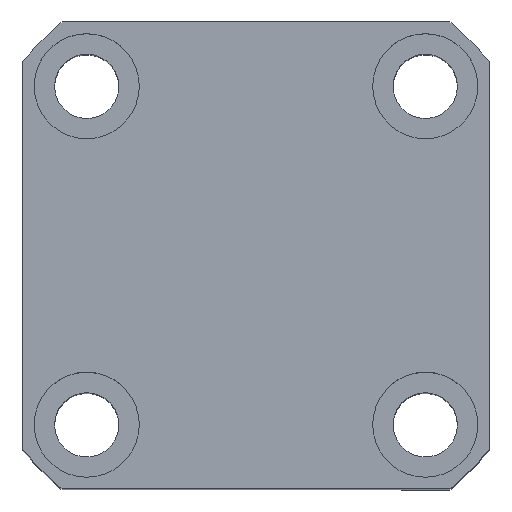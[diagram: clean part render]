
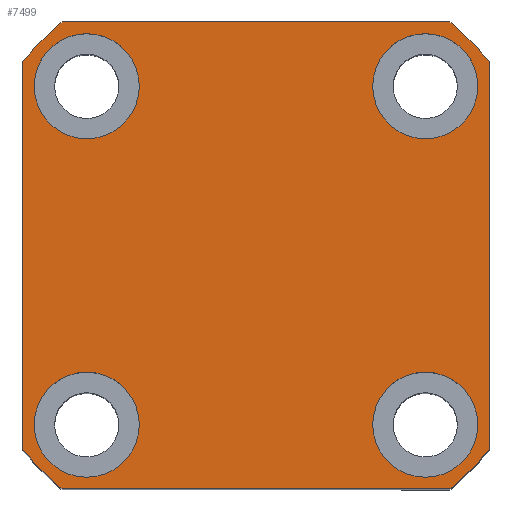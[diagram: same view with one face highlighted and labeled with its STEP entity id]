
A CAD part, top view. The second image highlights one B-rep face of the part: STEP entity #7499.
In plain terms, the highlighted planar face has unit normal (0, 0, 1).
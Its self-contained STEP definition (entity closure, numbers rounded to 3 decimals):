
#20 = DIRECTION ( 'NONE',  ( 1., 0., 0. ) ) ;
#23 = EDGE_CURVE ( 'NONE', #7482, #9478, #5397, .T. ) ;
#97 = ORIENTED_EDGE ( 'NONE', *, *, #13170, .T. ) ;
#160 = DIRECTION ( 'NONE',  ( 0., 0., 1. ) ) ;
#259 = VERTEX_POINT ( 'NONE', #10989 ) ;
#319 = VECTOR ( 'NONE', #8553, 1000. ) ;
#350 = ORIENTED_EDGE ( 'NONE', *, *, #7555, .F. ) ;
#438 = VERTEX_POINT ( 'NONE', #6042 ) ;
#563 = CIRCLE ( 'NONE', #3955, 9. ) ;
#766 = ORIENTED_EDGE ( 'NONE', *, *, #14196, .T. ) ;
#1042 = CARTESIAN_POINT ( 'NONE',  ( 20., 29., 52.5 ) ) ;
#1100 = VERTEX_POINT ( 'NONE', #3718 ) ;
#1332 = DIRECTION ( 'NONE',  ( 0., -1., 0. ) ) ;
#1334 = CIRCLE ( 'NONE', #10176, 9. ) ;
#1445 = CARTESIAN_POINT ( 'NONE',  ( 0., 0., 52.5 ) ) ;
#1593 = DIRECTION ( 'NONE',  ( 0., 0., 1. ) ) ;
#1915 = ORIENTED_EDGE ( 'NONE', *, *, #12747, .T. ) ;
#1973 = DIRECTION ( 'NONE',  ( 0., 0., 1. ) ) ;
#1993 = FACE_BOUND ( 'NONE', #2980, .T. ) ;
#2022 = DIRECTION ( 'NONE',  ( 1., 0., 0. ) ) ;
#2194 = CARTESIAN_POINT ( 'NONE',  ( 29., -29., 52.5 ) ) ;
#2205 = DIRECTION ( 'NONE',  ( 0., 0., 1. ) ) ;
#2312 = CARTESIAN_POINT ( 'NONE',  ( 40., 33.226, 52.5 ) ) ;
#2402 = CARTESIAN_POINT ( 'NONE',  ( -33.226, -40., 52.5 ) ) ;
#2417 = EDGE_CURVE ( 'NONE', #1100, #13670, #11173, .T. ) ;
#2428 = VERTEX_POINT ( 'NONE', #4315 ) ;
#2626 = CARTESIAN_POINT ( 'NONE',  ( -33.226, 40., 52.5 ) ) ;
#2692 = ORIENTED_EDGE ( 'NONE', *, *, #23, .T. ) ;
#2723 = EDGE_CURVE ( 'NONE', #8431, #7482, #6367, .T. ) ;
#2822 = VECTOR ( 'NONE', #9058, 1000. ) ;
#2845 = CIRCLE ( 'NONE', #10443, 9. ) ;
#2862 = DIRECTION ( 'NONE',  ( 1., 0., 0. ) ) ;
#2947 = AXIS2_PLACEMENT_3D ( 'NONE', #2194, #6552, #8691 ) ;
#2980 = EDGE_LOOP ( 'NONE', ( #12749, #6247 ) ) ;
#3077 = AXIS2_PLACEMENT_3D ( 'NONE', #5657, #2205, #13287 ) ;
#3302 = ORIENTED_EDGE ( 'NONE', *, *, #11012, .F. ) ;
#3345 = CARTESIAN_POINT ( 'NONE',  ( -20., 29., 52.5 ) ) ;
#3351 = FACE_OUTER_BOUND ( 'NONE', #9368, .T. ) ;
#3360 = EDGE_LOOP ( 'NONE', ( #12214, #350 ) ) ;
#3536 = VERTEX_POINT ( 'NONE', #6315 ) ;
#3605 = CARTESIAN_POINT ( 'NONE',  ( -40., 33.226, 52.5 ) ) ;
#3620 = CIRCLE ( 'NONE', #5961, 52. ) ;
#3718 = CARTESIAN_POINT ( 'NONE',  ( 20., -29., 52.5 ) ) ;
#3929 = CARTESIAN_POINT ( 'NONE',  ( 0., 0., 52.5 ) ) ;
#3955 = AXIS2_PLACEMENT_3D ( 'NONE', #8994, #9968, #13374 ) ;
#4023 = DIRECTION ( 'NONE',  ( 0., 0., 1. ) ) ;
#4146 = CARTESIAN_POINT ( 'NONE',  ( -40., 33.226, 52.5 ) ) ;
#4315 = CARTESIAN_POINT ( 'NONE',  ( 38., 29., 52.5 ) ) ;
#4517 = CARTESIAN_POINT ( 'NONE',  ( -40., -33.226, 52.5 ) ) ;
#4522 = CARTESIAN_POINT ( 'NONE',  ( 0., 0., 52.5 ) ) ;
#4659 = DIRECTION ( 'NONE',  ( 1., 0., 0. ) ) ;
#4874 = CARTESIAN_POINT ( 'NONE',  ( -38., 29., 52.5 ) ) ;
#4896 = ORIENTED_EDGE ( 'NONE', *, *, #2723, .T. ) ;
#4985 = EDGE_CURVE ( 'NONE', #7458, #259, #3620, .T. ) ;
#5125 = CARTESIAN_POINT ( 'NONE',  ( 33.226, 40., 52.5 ) ) ;
#5397 = LINE ( 'NONE', #7410, #12565 ) ;
#5414 = EDGE_CURVE ( 'NONE', #438, #3536, #563, .T. ) ;
#5498 = ORIENTED_EDGE ( 'NONE', *, *, #10920, .T. ) ;
#5657 = CARTESIAN_POINT ( 'NONE',  ( 0., 0., 52.5 ) ) ;
#5961 = AXIS2_PLACEMENT_3D ( 'NONE', #4522, #9005, #4659 ) ;
#6042 = CARTESIAN_POINT ( 'NONE',  ( -20., -29., 52.5 ) ) ;
#6247 = ORIENTED_EDGE ( 'NONE', *, *, #11301, .F. ) ;
#6315 = CARTESIAN_POINT ( 'NONE',  ( -38., -29., 52.5 ) ) ;
#6367 = CIRCLE ( 'NONE', #8354, 52. ) ;
#6403 = VERTEX_POINT ( 'NONE', #4146 ) ;
#6431 = CARTESIAN_POINT ( 'NONE',  ( 38., -29., 52.5 ) ) ;
#6442 = CIRCLE ( 'NONE', #8207, 9. ) ;
#6448 = DIRECTION ( 'NONE',  ( 0., 0., 1. ) ) ;
#6552 = DIRECTION ( 'NONE',  ( 0., 0., 1. ) ) ;
#6578 = VERTEX_POINT ( 'NONE', #4874 ) ;
#6588 = LINE ( 'NONE', #3605, #10675 ) ;
#6693 = ORIENTED_EDGE ( 'NONE', *, *, #11919, .T. ) ;
#6865 = DIRECTION ( 'NONE',  ( 1., 0., 0. ) ) ;
#6936 = CIRCLE ( 'NONE', #11958, 52. ) ;
#7202 = DIRECTION ( 'NONE',  ( 1., 0., 0. ) ) ;
#7363 = CARTESIAN_POINT ( 'NONE',  ( -29., 29., 52.5 ) ) ;
#7400 = AXIS2_PLACEMENT_3D ( 'NONE', #9401, #9487, #7202 ) ;
#7410 = CARTESIAN_POINT ( 'NONE',  ( 40., 33.226, 52.5 ) ) ;
#7433 = VERTEX_POINT ( 'NONE', #3345 ) ;
#7458 = VERTEX_POINT ( 'NONE', #4517 ) ;
#7482 = VERTEX_POINT ( 'NONE', #7761 ) ;
#7499 = ADVANCED_FACE ( 'NONE', ( #9555, #7832, #1993, #9032, #3351 ), #12163, .T. ) ;
#7555 = EDGE_CURVE ( 'NONE', #8542, #2428, #1334, .T. ) ;
#7761 = CARTESIAN_POINT ( 'NONE',  ( 40., -33.226, 52.5 ) ) ;
#7832 = FACE_BOUND ( 'NONE', #12361, .T. ) ;
#7840 = AXIS2_PLACEMENT_3D ( 'NONE', #3929, #11755, #2862 ) ;
#8101 = VERTEX_POINT ( 'NONE', #2626 ) ;
#8151 = CIRCLE ( 'NONE', #9505, 9. ) ;
#8178 = CARTESIAN_POINT ( 'NONE',  ( -29., -29., 52.5 ) ) ;
#8207 = AXIS2_PLACEMENT_3D ( 'NONE', #7363, #4023, #10765 ) ;
#8291 = CIRCLE ( 'NONE', #10980, 9. ) ;
#8320 = EDGE_LOOP ( 'NONE', ( #3302, #13647 ) ) ;
#8354 = AXIS2_PLACEMENT_3D ( 'NONE', #14167, #6448, #13020 ) ;
#8431 = VERTEX_POINT ( 'NONE', #10756 ) ;
#8542 = VERTEX_POINT ( 'NONE', #1042 ) ;
#8553 = DIRECTION ( 'NONE',  ( -1., 0., 0. ) ) ;
#8621 = CIRCLE ( 'NONE', #7400, 9. ) ;
#8691 = DIRECTION ( 'NONE',  ( 1., 0., 0. ) ) ;
#8833 = EDGE_CURVE ( 'NONE', #2428, #8542, #2845, .T. ) ;
#8994 = CARTESIAN_POINT ( 'NONE',  ( -29., -29., 52.5 ) ) ;
#9005 = DIRECTION ( 'NONE',  ( 0., 0., 1. ) ) ;
#9032 = FACE_BOUND ( 'NONE', #3360, .T. ) ;
#9058 = DIRECTION ( 'NONE',  ( 1., 0., 0. ) ) ;
#9131 = EDGE_CURVE ( 'NONE', #7433, #6578, #6442, .T. ) ;
#9136 = DIRECTION ( 'NONE',  ( 1., 0., 0. ) ) ;
#9368 = EDGE_LOOP ( 'NONE', ( #1915, #97, #11861, #5498, #4896, #2692, #6693, #766 ) ) ;
#9401 = CARTESIAN_POINT ( 'NONE',  ( 29., -29., 52.5 ) ) ;
#9478 = VERTEX_POINT ( 'NONE', #2312 ) ;
#9487 = DIRECTION ( 'NONE',  ( 0., 0., 1. ) ) ;
#9505 = AXIS2_PLACEMENT_3D ( 'NONE', #8178, #1593, #11533 ) ;
#9555 = FACE_BOUND ( 'NONE', #8320, .T. ) ;
#9598 = CARTESIAN_POINT ( 'NONE',  ( -29., 29., 52.5 ) ) ;
#9833 = EDGE_CURVE ( 'NONE', #3536, #438, #8151, .T. ) ;
#9862 = ORIENTED_EDGE ( 'NONE', *, *, #5414, .F. ) ;
#9968 = DIRECTION ( 'NONE',  ( 0., 0., 1. ) ) ;
#10013 = CIRCLE ( 'NONE', #7840, 52. ) ;
#10029 = CARTESIAN_POINT ( 'NONE',  ( 29., 29., 52.5 ) ) ;
#10040 = CARTESIAN_POINT ( 'NONE',  ( 29., 29., 52.5 ) ) ;
#10176 = AXIS2_PLACEMENT_3D ( 'NONE', #10029, #160, #20 ) ;
#10443 = AXIS2_PLACEMENT_3D ( 'NONE', #10040, #13342, #6865 ) ;
#10675 = VECTOR ( 'NONE', #1332, 1000. ) ;
#10756 = CARTESIAN_POINT ( 'NONE',  ( 33.226, -40., 52.5 ) ) ;
#10765 = DIRECTION ( 'NONE',  ( 1., 0., 0. ) ) ;
#10920 = EDGE_CURVE ( 'NONE', #259, #8431, #13110, .T. ) ;
#10980 = AXIS2_PLACEMENT_3D ( 'NONE', #9598, #1973, #2022 ) ;
#10989 = CARTESIAN_POINT ( 'NONE',  ( -33.226, -40., 52.5 ) ) ;
#11012 = EDGE_CURVE ( 'NONE', #13670, #1100, #8621, .T. ) ;
#11173 = CIRCLE ( 'NONE', #2947, 9. ) ;
#11301 = EDGE_CURVE ( 'NONE', #6578, #7433, #8291, .T. ) ;
#11533 = DIRECTION ( 'NONE',  ( 1., 0., 0. ) ) ;
#11755 = DIRECTION ( 'NONE',  ( 0., 0., 1. ) ) ;
#11853 = VERTEX_POINT ( 'NONE', #5125 ) ;
#11861 = ORIENTED_EDGE ( 'NONE', *, *, #4985, .T. ) ;
#11919 = EDGE_CURVE ( 'NONE', #9478, #11853, #10013, .T. ) ;
#11958 = AXIS2_PLACEMENT_3D ( 'NONE', #1445, #13365, #9136 ) ;
#12049 = LINE ( 'NONE', #14082, #319 ) ;
#12163 = PLANE ( 'NONE',  #3077 ) ;
#12214 = ORIENTED_EDGE ( 'NONE', *, *, #8833, .F. ) ;
#12361 = EDGE_LOOP ( 'NONE', ( #9862, #13199 ) ) ;
#12565 = VECTOR ( 'NONE', #14015, 1000. ) ;
#12747 = EDGE_CURVE ( 'NONE', #8101, #6403, #6936, .T. ) ;
#12749 = ORIENTED_EDGE ( 'NONE', *, *, #9131, .F. ) ;
#13020 = DIRECTION ( 'NONE',  ( 1., 0., 0. ) ) ;
#13110 = LINE ( 'NONE', #2402, #2822 ) ;
#13170 = EDGE_CURVE ( 'NONE', #6403, #7458, #6588, .T. ) ;
#13199 = ORIENTED_EDGE ( 'NONE', *, *, #9833, .F. ) ;
#13287 = DIRECTION ( 'NONE',  ( 1., 0., 0. ) ) ;
#13342 = DIRECTION ( 'NONE',  ( 0., 0., 1. ) ) ;
#13365 = DIRECTION ( 'NONE',  ( 0., 0., 1. ) ) ;
#13374 = DIRECTION ( 'NONE',  ( 1., 0., 0. ) ) ;
#13647 = ORIENTED_EDGE ( 'NONE', *, *, #2417, .F. ) ;
#13670 = VERTEX_POINT ( 'NONE', #6431 ) ;
#14015 = DIRECTION ( 'NONE',  ( 0., 1., 0. ) ) ;
#14082 = CARTESIAN_POINT ( 'NONE',  ( -33.226, 40., 52.5 ) ) ;
#14167 = CARTESIAN_POINT ( 'NONE',  ( 0., 0., 52.5 ) ) ;
#14196 = EDGE_CURVE ( 'NONE', #11853, #8101, #12049, .T. ) ;
